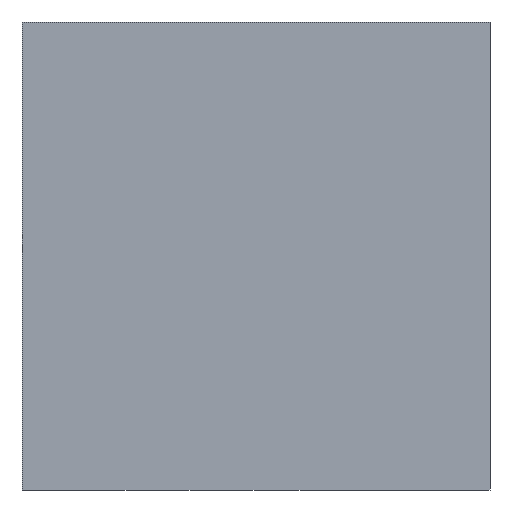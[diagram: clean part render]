
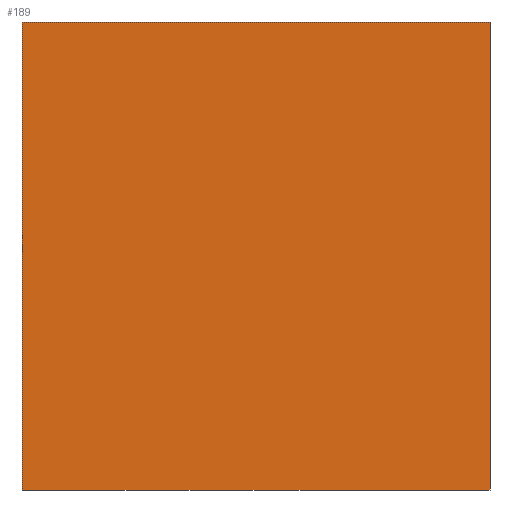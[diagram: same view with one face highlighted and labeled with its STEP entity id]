
A CAD part, front view. The second image highlights one B-rep face of the part: STEP entity #189.
In plain terms, the highlighted planar face has unit normal (0, -1, 0).
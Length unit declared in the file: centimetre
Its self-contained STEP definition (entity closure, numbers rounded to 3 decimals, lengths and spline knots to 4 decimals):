
#2 = VERTEX_POINT ( 'NONE', #42 ) ;
#5 = CARTESIAN_POINT ( 'NONE',  ( 0., 0., 0. ) ) ;
#6 = VERTEX_POINT ( 'NONE', #348 ) ;
#7 = CARTESIAN_POINT ( 'NONE',  ( 0., 0., 1000. ) ) ;
#24 = CARTESIAN_POINT ( 'NONE',  ( 1000., 0., 1000. ) ) ;
#28 = AXIS2_PLACEMENT_3D ( 'NONE', #7, #73, #213 ) ;
#30 = LINE ( 'NONE', #24, #118 ) ;
#42 = CARTESIAN_POINT ( 'NONE',  ( 0., 0., 1000. ) ) ;
#51 = EDGE_CURVE ( 'NONE', #2, #265, #160, .T. ) ;
#55 = EDGE_CURVE ( 'NONE', #265, #6, #30, .T. ) ;
#61 = CARTESIAN_POINT ( 'NONE',  ( 0., 0., 1000. ) ) ;
#73 = DIRECTION ( 'NONE',  ( 0., 1., 0. ) ) ;
#98 = EDGE_LOOP ( 'NONE', ( #267, #166, #276, #150 ) ) ;
#118 = VECTOR ( 'NONE', #131, 100. ) ;
#131 = DIRECTION ( 'NONE',  ( 0., 0., -1. ) ) ;
#150 = ORIENTED_EDGE ( 'NONE', *, *, #301, .T. ) ;
#160 = LINE ( 'NONE', #61, #306 ) ;
#166 = ORIENTED_EDGE ( 'NONE', *, *, #55, .F. ) ;
#174 = PLANE ( 'NONE',  #28 ) ;
#189 = ADVANCED_FACE ( 'NONE', ( #414 ), #174, .F. ) ;
#204 = VECTOR ( 'NONE', #323, 100. ) ;
#208 = EDGE_CURVE ( 'NONE', #244, #6, #380, .T. ) ;
#213 = DIRECTION ( 'NONE',  ( 0., 0., 1. ) ) ;
#240 = CARTESIAN_POINT ( 'NONE',  ( 0., 0., 0. ) ) ;
#244 = VERTEX_POINT ( 'NONE', #5 ) ;
#265 = VERTEX_POINT ( 'NONE', #420 ) ;
#267 = ORIENTED_EDGE ( 'NONE', *, *, #208, .T. ) ;
#276 = ORIENTED_EDGE ( 'NONE', *, *, #51, .F. ) ;
#301 = EDGE_CURVE ( 'NONE', #2, #244, #353, .T. ) ;
#306 = VECTOR ( 'NONE', #364, 100. ) ;
#323 = DIRECTION ( 'NONE',  ( 0., 0., -1. ) ) ;
#347 = CARTESIAN_POINT ( 'NONE',  ( 0., 0., 1000. ) ) ;
#348 = CARTESIAN_POINT ( 'NONE',  ( 1000., 0., 0. ) ) ;
#353 = LINE ( 'NONE', #347, #204 ) ;
#364 = DIRECTION ( 'NONE',  ( 1., 0., 0. ) ) ;
#380 = LINE ( 'NONE', #240, #390 ) ;
#390 = VECTOR ( 'NONE', #411, 100. ) ;
#411 = DIRECTION ( 'NONE',  ( 1., 0., 0. ) ) ;
#414 = FACE_OUTER_BOUND ( 'NONE', #98, .T. ) ;
#420 = CARTESIAN_POINT ( 'NONE',  ( 1000., 0., 1000. ) ) ;
